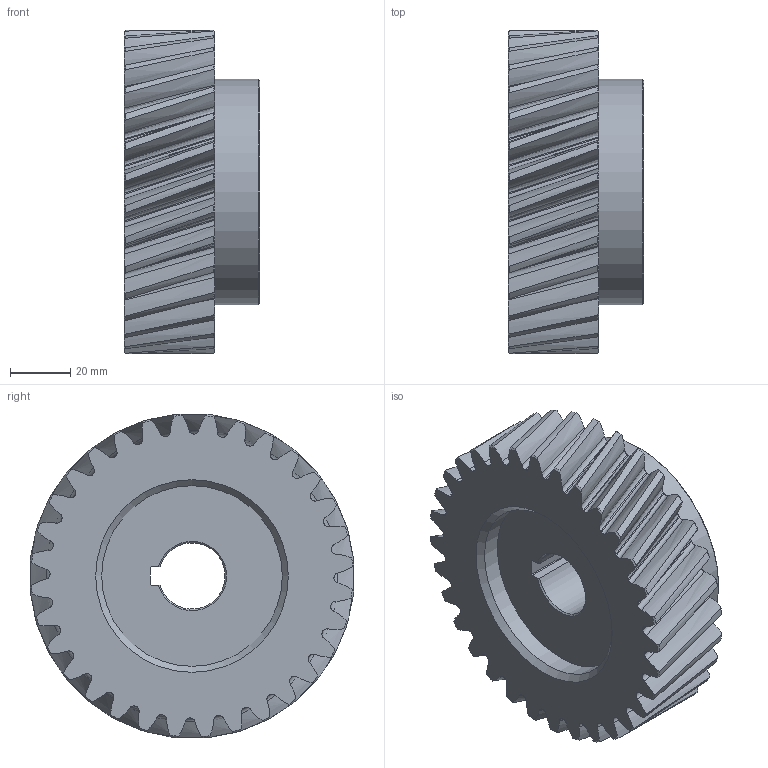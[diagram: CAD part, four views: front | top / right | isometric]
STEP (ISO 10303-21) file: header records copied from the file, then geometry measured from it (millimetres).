
FILE_DESCRIPTION(('STEP AP214'), '1');
FILE_NAME('GH3-T32D22 - Øåñòåðíÿ', '2018-06-14T13:39:28', (''), (''), 'ASCON STEP Converter 1.3', 'ASCON Math Kernel', '');
FILE_SCHEMA(('AUTOMOTIVE_DESIGN { 1 0 10303 214 3 1 1}'));
Length unit declared in the file: millimetre
Products named in the file (1): GH3-T32D22
Bounding box: 45 x 107.62 x 107.62 mm (x, y, z)
Volume: 271099.1 mm3; surface area: 41534 mm2
Topology: 1 solids, 1 shells, 272 faces, 805 edges, 540 vertices
Faces by surface type: bspline 128, cylinder 69, cone 68, plane 7
Full cylindrical faces by diameter (mm): 60 x1, 75 x1
Entity records: 18296 total; most frequent: CARTESIAN_POINT 10020, ORIENTED_EDGE 1596, EDGE_CURVE 798, DIRECTION 714, B_SPLINE_CURVE_WITH_KNOTS 581, VERTEX_POINT 534, AXIS2_PLACEMENT_3D 351, EDGE_LOOP 280
